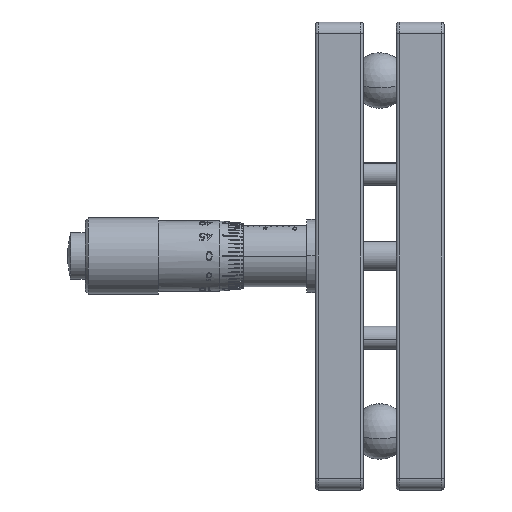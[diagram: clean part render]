
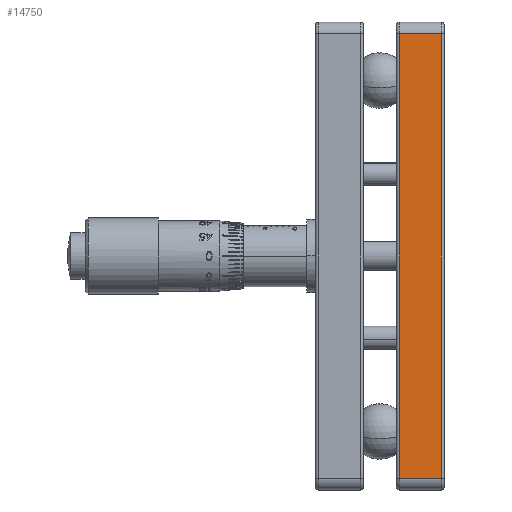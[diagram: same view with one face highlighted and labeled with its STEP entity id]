
A CAD part, left-side view. The second image highlights one B-rep face of the part: STEP entity #14750.
In plain terms, the highlighted planar face has unit normal (-1, 0, 0).
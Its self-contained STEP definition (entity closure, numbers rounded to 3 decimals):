
#319 = DIRECTION ( 'NONE',  ( 0., 0., -1. ) ) ;
#3655 = EDGE_CURVE ( 'NONE', #37190, #11001, #8666, .T. ) ;
#4020 = DIRECTION ( 'NONE',  ( 0., 0., 1. ) ) ;
#5120 = DIRECTION ( 'NONE',  ( 1., 0., 0. ) ) ;
#7934 = CARTESIAN_POINT ( 'NONE',  ( -60., 3.6, -38. ) ) ;
#8666 = LINE ( 'NONE', #24561, #32322 ) ;
#9037 = FACE_OUTER_BOUND ( 'NONE', #15925, .T. ) ;
#11001 = VERTEX_POINT ( 'NONE', #27023 ) ;
#11282 = CARTESIAN_POINT ( 'NONE',  ( -60., 4.1, 38. ) ) ;
#13714 = ORIENTED_EDGE ( 'NONE', *, *, #3655, .T. ) ;
#14750 = ADVANCED_FACE ( 'NONE', ( #9037 ), #24940, .F. ) ;
#15925 = EDGE_LOOP ( 'NONE', ( #13714, #51495, #17612, #25986 ) ) ;
#17612 = ORIENTED_EDGE ( 'NONE', *, *, #26116, .T. ) ;
#18183 = CARTESIAN_POINT ( 'NONE',  ( -60., 3.6, 38. ) ) ;
#20148 = LINE ( 'NONE', #36060, #46569 ) ;
#21019 = DIRECTION ( 'NONE',  ( 0., 0., -1. ) ) ;
#21056 = VECTOR ( 'NONE', #4020, 1000. ) ;
#21220 = VERTEX_POINT ( 'NONE', #33971 ) ;
#23818 = LINE ( 'NONE', #39766, #21056 ) ;
#24561 = CARTESIAN_POINT ( 'NONE',  ( -60., 4.1, -38. ) ) ;
#24940 = PLANE ( 'NONE',  #46422 ) ;
#25785 = VERTEX_POINT ( 'NONE', #18183 ) ;
#25986 = ORIENTED_EDGE ( 'NONE', *, *, #33101, .T. ) ;
#26116 = EDGE_CURVE ( 'NONE', #21220, #25785, #47052, .T. ) ;
#27023 = CARTESIAN_POINT ( 'NONE',  ( -60., -3.6, -38. ) ) ;
#27167 = DIRECTION ( 'NONE',  ( 0., 1., 0. ) ) ;
#32322 = VECTOR ( 'NONE', #40517, 1000. ) ;
#33101 = EDGE_CURVE ( 'NONE', #25785, #37190, #20148, .T. ) ;
#33971 = CARTESIAN_POINT ( 'NONE',  ( -60., -3.6, 38. ) ) ;
#36060 = CARTESIAN_POINT ( 'NONE',  ( -60., 3.6, 40. ) ) ;
#36083 = EDGE_CURVE ( 'NONE', #11001, #21220, #23818, .T. ) ;
#37190 = VERTEX_POINT ( 'NONE', #7934 ) ;
#39766 = CARTESIAN_POINT ( 'NONE',  ( -60., -3.6, 38. ) ) ;
#40517 = DIRECTION ( 'NONE',  ( 0., -1., 0. ) ) ;
#40892 = CARTESIAN_POINT ( 'NONE',  ( -60., 4.1, 40. ) ) ;
#43661 = VECTOR ( 'NONE', #27167, 1000. ) ;
#46422 = AXIS2_PLACEMENT_3D ( 'NONE', #40892, #5120, #21019 ) ;
#46569 = VECTOR ( 'NONE', #319, 1000. ) ;
#47052 = LINE ( 'NONE', #11282, #43661 ) ;
#51495 = ORIENTED_EDGE ( 'NONE', *, *, #36083, .T. ) ;
